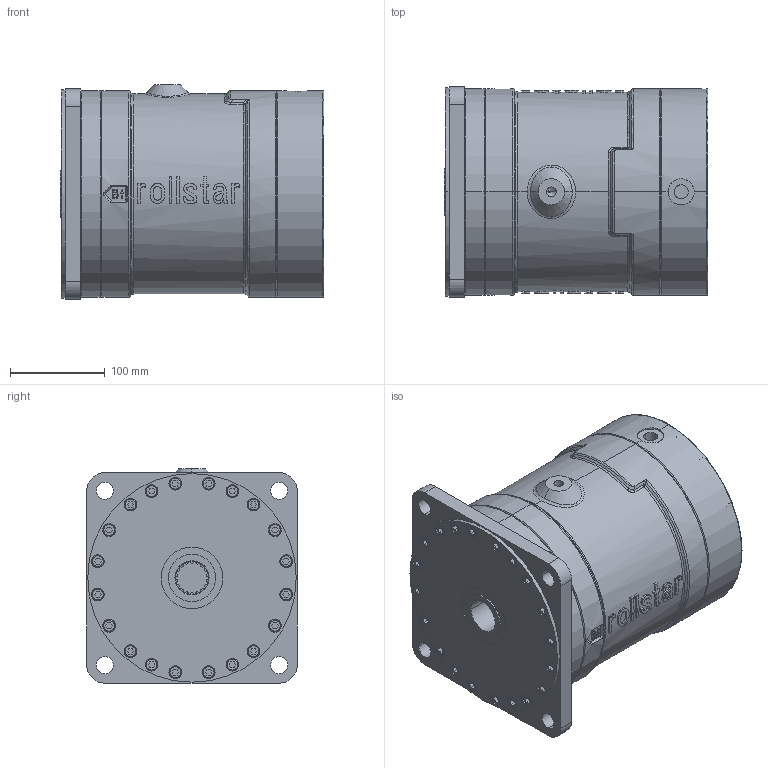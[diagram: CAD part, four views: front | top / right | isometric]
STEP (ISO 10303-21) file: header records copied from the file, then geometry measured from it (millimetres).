
FILE_DESCRIPTION(('Creo Elements/Direct Modeling STEP Export'),'2;1');
FILE_NAME('AM160_220 axial.stp','2017-07-10T14:57:37',(''),(''),'PTC Creo Elements/Direct Modeling STEP processor for AP214 (Solid Model)','PTC Creo Elements/Direct Modeling 19.0C 15-Aug-2015 (C) Parametric Technology GmbH','');
FILE_SCHEMA(('AUTOMOTIVE_DESIGN { 1 0 10303 214 1 1 1 1 }'));
Products named in the file (2): AM160_220
Assembly tree (1 placements, depth 2):
  AM160_220
    AM160_220
Bounding box: 278 x 222 x 226 mm (x, y, z)
Volume: 10049954 mm3; surface area: 354957.3 mm2
Topology: 1 solids, 1 shells, 1039 faces, 2532 edges, 1630 vertices
Faces by surface type: plane 499, cylinder 315, cone 114, extrusion 83, torus 14, bspline 14
Entity records: 58819 total; most frequent: CARTESIAN_POINT 32432, ORIENTED_EDGE 5024, DIRECTION 4450, EDGE_CURVE 2512, VERTEX_POINT 1630, VECTOR 1526, AXIS2_PLACEMENT_3D 1462, LINE 1443
